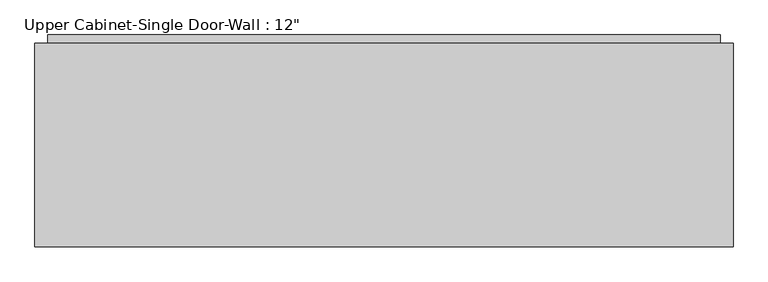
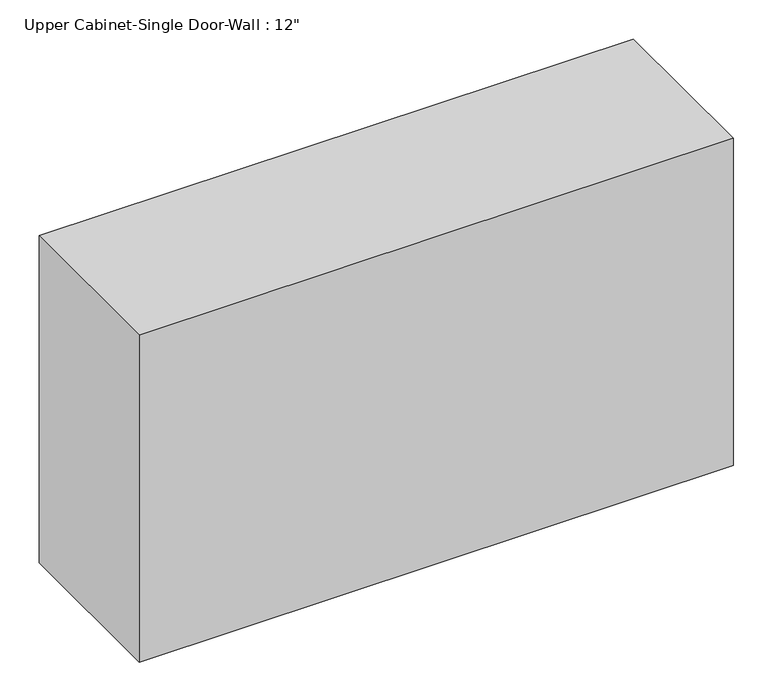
"""IFC4 building model written with IfcOpenShell, lengths in millimetres: furniture geometry."""

from ifc_helpers import new_model, si_unit, frame, origin, place, context, project, spatial, polyline, outline, extrude, faceted_brep, source, transform, mapped, element, save


def furniture_3d8370f3(model_context):
    return source(origin(), model_context, "Body", "SolidModel", [
        faceted_brep([(-787.7205643, 76.2, 2133.6), (-787.7205643, 76.2, 1524.0), (258.3711628, 76.2, 1524.0), (258.3711628, 76.2, 2133.6), (-787.7205643, 381.0, 2133.6), (258.3711628, 381.0, 2133.6), (258.3711628, 381.0, 1524.0), (-787.7205643, 381.0, 1524.0), (-768.6705643, 381.0, 2114.55), (-768.6705643, 381.0, 1543.05), (239.3211628, 381.0, 1543.05), (239.3211628, 381.0, 2114.55), (239.3211628, 95.25, 2114.55), (-768.6705643, 95.25, 2114.55), (239.3211628, 95.25, 1543.05), (-768.6705643, 95.25, 1543.05)], [[[0, 1, 2, 3]], [[4, 5, 6, 7], [8, 9, 10, 11]], [[1, 0, 4, 7]], [[2, 1, 7, 6]], [[3, 2, 6, 5]], [[0, 3, 5, 4]], [[8, 11, 12, 13]], [[11, 10, 14, 12]], [[10, 9, 15, 14]], [[9, 8, 13, 15]], [[13, 12, 14, 15]]]),
        extrude(outline(polyline([(-768.6705643, 393.7), (239.3211628, 393.7), (239.3211628, 361.95), (-768.6705643, 361.95), (-768.6705643, 393.7)])), frame((0.0, 0.0, 1543.05), z_axis=(0.0, 0.0, 1.0), x_axis=(1.0, 0.0, 0.0)), (0.0, 0.0, 1.0), 571.5),
    ])


if __name__ == "__main__":
    model = new_model("IFC4")
    model_context = context("Model", 3, world=origin())
    ifc_project = project(units=[si_unit("LENGTHUNIT", "METRE", prefix="MILLI")], contexts=[model_context])
    site = spatial("IfcSite", under=ifc_project)
    building = spatial("IfcBuilding", under=site)
    placement = place(None, origin())
    furniture_shape = furniture_3d8370f3(model_context)
    element("IfcFurniture", 1, ObjectType="Upper Cabinet-Single Door-Wall : 12\"", at=placement, inside=building, context=model_context, shape_type="MappedRepresentation", body=[
        mapped(furniture_shape, transform((0.0, 0.0, 0.0), x_axis=(1.0, 0.0, 0.0), y_axis=(0.0, 1.0, 0.0), z_axis=(0.0, 0.0, 1.0))),
    ])
    save(model, "model.ifc")
